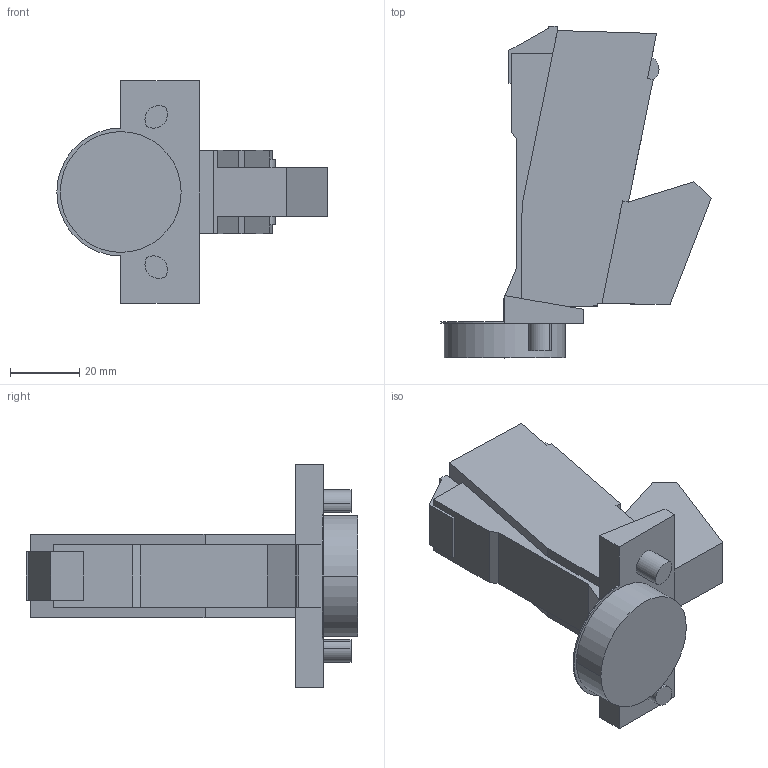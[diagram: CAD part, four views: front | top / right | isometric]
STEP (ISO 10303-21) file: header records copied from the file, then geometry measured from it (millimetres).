
FILE_DESCRIPTION (( 'STEP AP214' ), '1' );
FILE_NAME ('Scharnier T Impresso 160° GB_BB, K00 - Neu -.step', '2019-09-17T09:15:06', ( '' ), ( '' ), 'SwSTEP 2.0', 'SolidWorks 2019', '' );
FILE_SCHEMA (( 'AUTOMOTIVE_DESIGN' ));
Length unit declared in the file: millimetre
Products named in the file (1): Scharnier T Impresso 160° GB_BB, K00 - Neu -
Bounding box: 78.27 x 96.09 x 64.5 mm (x, y, z)
Volume: 91896.3 mm3; surface area: 18758.4 mm2
Topology: 1 solids, 1 shells, 65 faces, 173 edges, 114 vertices
Faces by surface type: plane 54, cylinder 11
Entity records: 2031 total; most frequent: CARTESIAN_POINT 353, ORIENTED_EDGE 346, DIRECTION 327, EDGE_CURVE 173, LINE 151, VECTOR 151, VERTEX_POINT 114, AXIS2_PLACEMENT_3D 88
